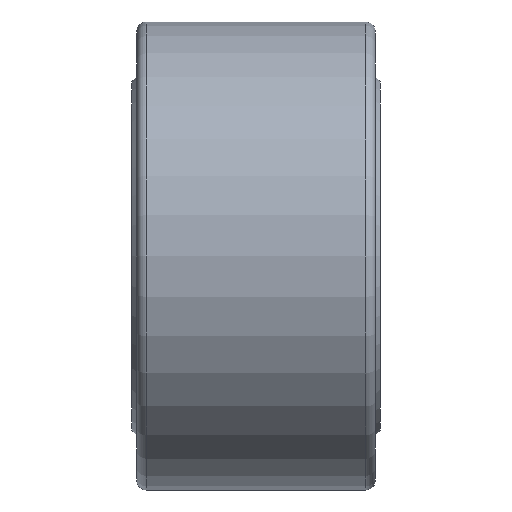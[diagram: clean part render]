
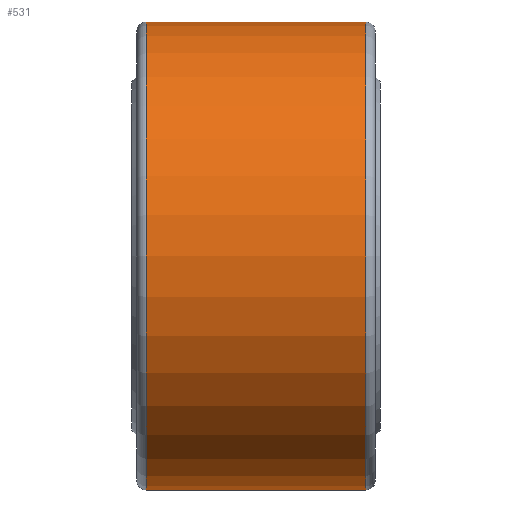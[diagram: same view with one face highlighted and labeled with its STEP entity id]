
A CAD part, front view. The second image highlights one B-rep face of the part: STEP entity #531.
In plain terms, the highlighted cylindrical face has radius 23.5 mm (diameter 47 mm), a full revolution.
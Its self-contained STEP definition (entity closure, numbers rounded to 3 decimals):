
#151=CYLINDRICAL_SURFACE('',#581,23.5);
#169=FACE_BOUND('',#251,.T.);
#208=FACE_OUTER_BOUND('',#250,.T.);
#250=EDGE_LOOP('',(#450));
#251=EDGE_LOOP('',(#451));
#329=CIRCLE('',#580,23.5);
#330=CIRCLE('',#582,23.5);
#369=VERTEX_POINT('',#914);
#370=VERTEX_POINT('',#917);
#409=EDGE_CURVE('',#369,#369,#329,.T.);
#410=EDGE_CURVE('',#370,#370,#330,.T.);
#450=ORIENTED_EDGE('',*,*,#410,.F.);
#451=ORIENTED_EDGE('',*,*,#409,.F.);
#531=ADVANCED_FACE('',(#208,#169),#151,.T.);
#580=AXIS2_PLACEMENT_3D('',#915,#694,#695);
#581=AXIS2_PLACEMENT_3D('',#916,#696,#697);
#582=AXIS2_PLACEMENT_3D('',#918,#698,#699);
#694=DIRECTION('center_axis',(-1.,0.,0.));
#695=DIRECTION('ref_axis',(0.,-1.,0.));
#696=DIRECTION('center_axis',(1.,0.,0.));
#697=DIRECTION('ref_axis',(0.,1.,0.));
#698=DIRECTION('center_axis',(1.,0.,0.));
#699=DIRECTION('ref_axis',(0.,-1.,0.));
#914=CARTESIAN_POINT('',(-11.,23.5,0.));
#915=CARTESIAN_POINT('Origin',(-11.,0.,0.));
#916=CARTESIAN_POINT('Origin',(0.,0.,
0.));
#917=CARTESIAN_POINT('',(11.,23.5,0.));
#918=CARTESIAN_POINT('Origin',(11.,0.,0.));
